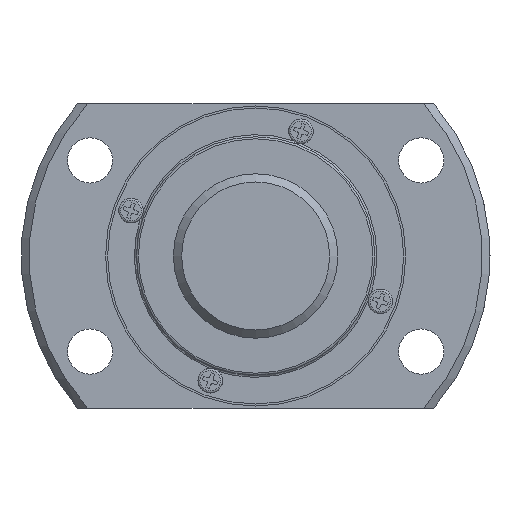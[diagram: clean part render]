
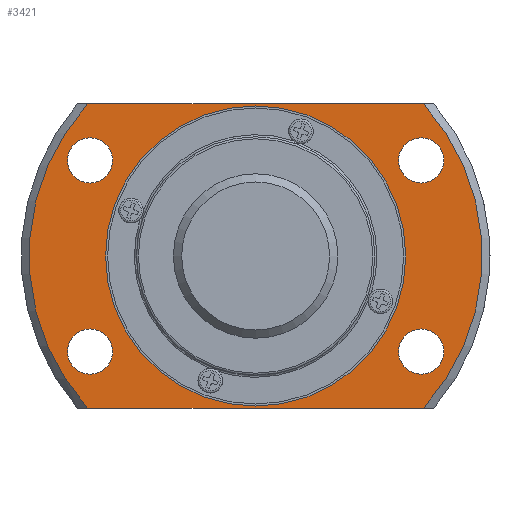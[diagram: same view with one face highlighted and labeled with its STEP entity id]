
A CAD part, left-side view. The second image highlights one B-rep face of the part: STEP entity #3421.
In plain terms, the highlighted planar face has unit normal (-1, 0, 0).
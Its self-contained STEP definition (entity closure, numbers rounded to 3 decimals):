
#24=LINE('',#5203,#352);
#25=LINE('',#5204,#353);
#352=VECTOR('',#4092,1000.);
#353=VECTOR('',#4093,1000.);
#728=PLANE('',#3681);
#912=ORIENTED_EDGE('',*,*,#1876,.T.);
#913=ORIENTED_EDGE('',*,*,#1877,.T.);
#914=ORIENTED_EDGE('',*,*,#1878,.T.);
#915=ORIENTED_EDGE('',*,*,#1879,.T.);
#916=ORIENTED_EDGE('',*,*,#1880,.T.);
#917=ORIENTED_EDGE('',*,*,#1871,.F.);
#918=ORIENTED_EDGE('',*,*,#1881,.T.);
#919=ORIENTED_EDGE('',*,*,#1874,.F.);
#920=ORIENTED_EDGE('',*,*,#1882,.T.);
#1871=EDGE_CURVE('',#2353,#2354,#2681,.T.);
#1874=EDGE_CURVE('',#2355,#2356,#2682,.T.);
#1876=EDGE_CURVE('',#2357,#2357,#2683,.T.);
#1877=EDGE_CURVE('',#2358,#2358,#2684,.T.);
#1878=EDGE_CURVE('',#2359,#2359,#2685,.T.);
#1879=EDGE_CURVE('',#2360,#2360,#2686,.T.);
#1880=EDGE_CURVE('',#2361,#2361,#2687,.T.);
#1881=EDGE_CURVE('',#2353,#2356,#24,.T.);
#1882=EDGE_CURVE('',#2355,#2354,#25,.T.);
#2353=VERTEX_POINT('',#5173);
#2354=VERTEX_POINT('',#5175);
#2355=VERTEX_POINT('',#5185);
#2356=VERTEX_POINT('',#5187);
#2357=VERTEX_POINT('',#5194);
#2358=VERTEX_POINT('',#5196);
#2359=VERTEX_POINT('',#5198);
#2360=VERTEX_POINT('',#5200);
#2361=VERTEX_POINT('',#5202);
#2681=CIRCLE('',#3678,55.1);
#2682=CIRCLE('',#3680,55.1);
#2683=CIRCLE('',#3682,36.5);
#2684=CIRCLE('',#3683,5.5);
#2685=CIRCLE('',#3684,5.5);
#2686=CIRCLE('',#3685,5.5);
#2687=CIRCLE('',#3686,5.5);
#2822=EDGE_LOOP('',(#912));
#2823=EDGE_LOOP('',(#913));
#2824=EDGE_LOOP('',(#914));
#2825=EDGE_LOOP('',(#915));
#2826=EDGE_LOOP('',(#916));
#2827=EDGE_LOOP('',(#917,#918,#919,#920));
#3098=FACE_BOUND('',#2822,.T.);
#3099=FACE_BOUND('',#2823,.T.);
#3100=FACE_BOUND('',#2824,.T.);
#3101=FACE_BOUND('',#2825,.T.);
#3102=FACE_BOUND('',#2826,.T.);
#3103=FACE_BOUND('',#2827,.T.);
#3421=ADVANCED_FACE('',(#3098,#3099,#3100,#3101,#3102,#3103),#728,.T.);
#3678=AXIS2_PLACEMENT_3D('',#5174,#4074,#4075);
#3680=AXIS2_PLACEMENT_3D('',#5186,#4078,#4079);
#3681=AXIS2_PLACEMENT_3D('',#5192,#4080,#4081);
#3682=AXIS2_PLACEMENT_3D('',#5193,#4082,#4083);
#3683=AXIS2_PLACEMENT_3D('',#5195,#4084,#4085);
#3684=AXIS2_PLACEMENT_3D('',#5197,#4086,#4087);
#3685=AXIS2_PLACEMENT_3D('',#5199,#4088,#4089);
#3686=AXIS2_PLACEMENT_3D('',#5201,#4090,#4091);
#4074=DIRECTION('',(1.,0.,0.));
#4075=DIRECTION('',(0.,0.,-1.));
#4078=DIRECTION('',(1.,0.,0.));
#4079=DIRECTION('',(0.,0.,-1.));
#4080=DIRECTION('',(-1.,0.,0.));
#4081=DIRECTION('',(0.,0.,1.));
#4082=DIRECTION('',(1.,0.,0.));
#4083=DIRECTION('',(0.,0.,-1.));
#4084=DIRECTION('',(1.,0.,0.));
#4085=DIRECTION('',(0.,0.,-1.));
#4086=DIRECTION('',(1.,0.,0.));
#4087=DIRECTION('',(0.,0.,-1.));
#4088=DIRECTION('',(1.,0.,0.));
#4089=DIRECTION('',(0.,0.,-1.));
#4090=DIRECTION('',(1.,0.,0.));
#4091=DIRECTION('',(0.,0.,-1.));
#4092=DIRECTION('',(0.,1.,0.));
#4093=DIRECTION('',(0.,-1.,0.));
#5173=CARTESIAN_POINT('',(11.5,-40.829,37.));
#5174=CARTESIAN_POINT('',(11.5,0.,0.));
#5175=CARTESIAN_POINT('',(11.5,-40.829,-37.));
#5185=CARTESIAN_POINT('',(11.5,40.829,-37.));
#5186=CARTESIAN_POINT('',(11.5,0.,0.));
#5187=CARTESIAN_POINT('',(11.5,40.829,37.));
#5192=CARTESIAN_POINT('',(11.5,55.1,0.));
#5193=CARTESIAN_POINT('',(11.5,0.,0.));
#5194=CARTESIAN_POINT('',(11.5,0.,-36.5));
#5195=CARTESIAN_POINT('',(11.5,-40.27,23.25));
#5196=CARTESIAN_POINT('',(11.5,-40.27,17.75));
#5197=CARTESIAN_POINT('',(11.5,40.27,-23.25));
#5198=CARTESIAN_POINT('',(11.5,40.27,-28.75));
#5199=CARTESIAN_POINT('',(11.5,-40.27,-23.25));
#5200=CARTESIAN_POINT('',(11.5,-40.27,-28.75));
#5201=CARTESIAN_POINT('',(11.5,40.27,23.25));
#5202=CARTESIAN_POINT('',(11.5,40.27,17.75));
#5203=CARTESIAN_POINT('',(11.5,55.1,37.));
#5204=CARTESIAN_POINT('',(11.5,55.1,-37.));
